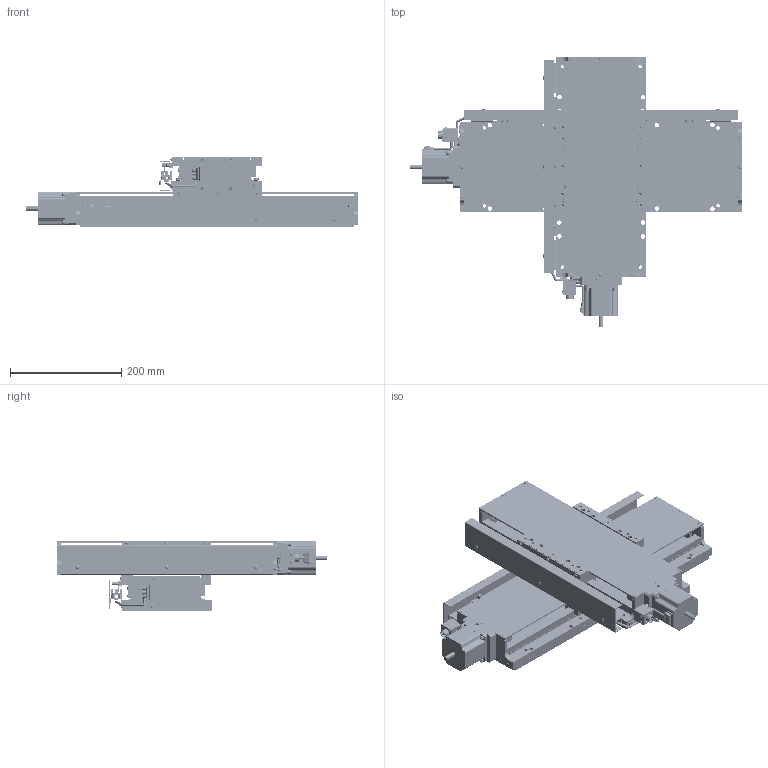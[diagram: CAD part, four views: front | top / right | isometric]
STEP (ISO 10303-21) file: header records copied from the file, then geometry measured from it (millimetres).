
FILE_DESCRIPTION( (''), '2;1');
FILE_NAME ('YA16F-L23201-RRR.stp','2021-01-05T15:29:46',(''),(''),'spGate 15.6.6','','');
FILE_SCHEMA (('AUTOMOTIVE_DESIGN'));
Length unit declared in the file: millimetre
Products named in the file (4): Assembly; YA16F-L23201-RRR-prt0; YA16F-L23201-RRR-prt1; YA16F-L23201-RRR-prt2
Assembly tree (3 placements, depth 2):
  Assembly
    YA16F-L23201-RRR-prt0
    YA16F-L23201-RRR-prt1
    YA16F-L23201-RRR-prt2
Bounding box: 596.5 x 486.5 x 127 mm (x, y, z)
Volume: 4914399.8 mm3; surface area: 1156801.3 mm2
Topology: 3 solids, 3 shells, 5156 faces, 12843 edges, 7981 vertices
Faces by surface type: plane 3082, cylinder 1236, bspline 774, sphere 64
Entity records: 259396 total; most frequent: CARTESIAN_POINT 38328, ORIENTED_EDGE 25326, DIRECTION 23545, COLOUR_RGB 17822, PRESENTATION_STYLE_ASSIGNMENT 17822, STYLED_ITEM 17822, EDGE_CURVE 12663, DRAUGHTING_PRE_DEFINED_CURVE_FONT 12663
